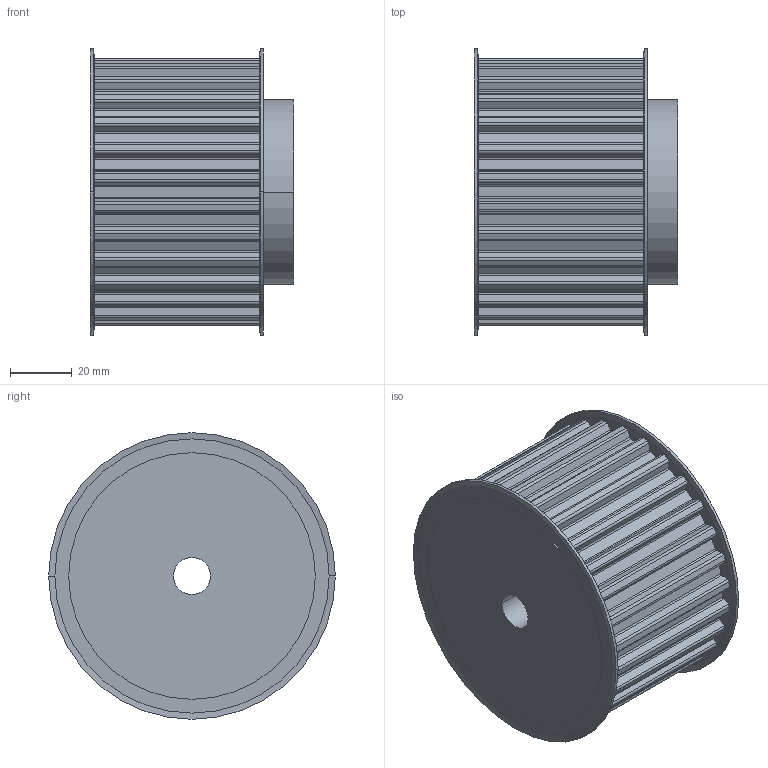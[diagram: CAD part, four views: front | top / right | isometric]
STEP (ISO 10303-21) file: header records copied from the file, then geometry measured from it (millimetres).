
FILE_DESCRIPTION( ( '' ), '1' );
FILE_NAME( 'C:/Users/Stangenbergd/Documents/CAD_Step/1/16452800.stp', '2021-10-19T09:01:39', ( '' ), ( '' ), ' ', ' ', ' ' );
FILE_SCHEMA( ( 'CONFIG_CONTROL_DESIGN' ) );
Length unit declared in the file: millimetre
Products named in the file (1): 1
Bounding box: 66.13 x 93 x 93 mm (x, y, z)
Volume: 329692.5 mm3; surface area: 41812.4 mm2
Topology: 1 solids, 1 shells, 251 faces, 724 edges, 480 vertices
Faces by surface type: cylinder 152, plane 91, cone 8
Entity records: 8414 total; most frequent: DIRECTION 1540, CARTESIAN_POINT 1456, ORIENTED_EDGE 1448, EDGE_CURVE 724, AXIS2_PLACEMENT_3D 564, VERTEX_POINT 480, LINE 412, VECTOR 412
